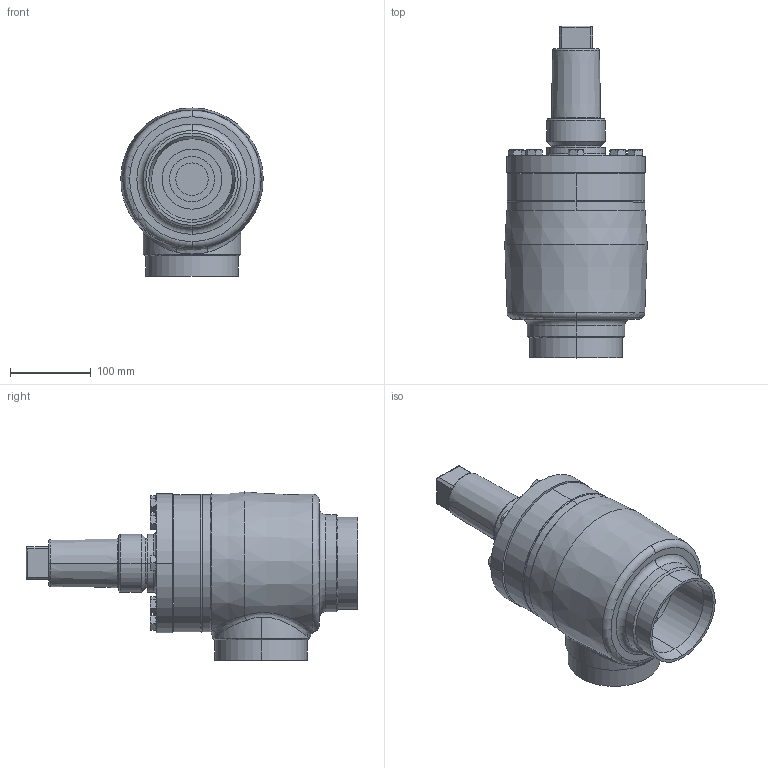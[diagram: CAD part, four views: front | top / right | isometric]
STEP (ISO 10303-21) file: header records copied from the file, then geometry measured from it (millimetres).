
FILE_DESCRIPTION (( 'STEP AP214' ), '1' );
FILE_NAME ('HRAR22400D19-DN100_R1_PS40.STEP', '2007-01-08T07:15:18', ( 'Herr Grams' ), ( 'AWP GmbH' ), 'SwSTEP 2.0', 'SolidWorks 2002296', '' );
FILE_SCHEMA (( 'AUTOMOTIVE_DESIGN' ));
Length unit declared in the file: millimetre
Products named in the file (9): HRAR22400D19-DN100_R1_PS40; AVR26300E19_Deck+Schr-DN100_Standard; Deckel26300E19-DN100_Standard; Sechskantschraube-DIN933_M12x 35; Gehäuse-kpl16400-DN100_R1_Standard; Kopfstück16300-DN100_Standard; Gehäuse16400-DN100_Standard; bead-DN100-1_Standard; Kappe16402_DN080-100_Standard
Assembly tree (15 placements, depth 3):
  HRAR22400D19-DN100_R1_PS40
    AVR26300E19_Deck+Schr-DN100_Standard
      Sechskantschraube-DIN933_M12x 35  x8
      Deckel26300E19-DN100_Standard
    Kappe16402_DN080-100_Standard
    Gehäuse-kpl16400-DN100_R1_Standard
      Gehäuse16400-DN100_Standard
      Kopfstück16300-DN100_Standard
      bead-DN100-1_Standard
Bounding box: 176.38 x 411 x 208.23 mm (x, y, z)
Volume: 2903837.2 mm3; surface area: 454853.3 mm2
Topology: 13 solids, 13 shells, 355 faces, 762 edges, 457 vertices
Faces by surface type: cone 134, plane 104, cylinder 95, torus 12, bspline 10
Entity records: 17435 total; most frequent: CARTESIAN_POINT 12660, DIRECTION 911, ORIENTED_EDGE 796, EDGE_CURVE 398, AXIS2_PLACEMENT_3D 396, VERTEX_POINT 247, EDGE_LOOP 221, CIRCLE 206
